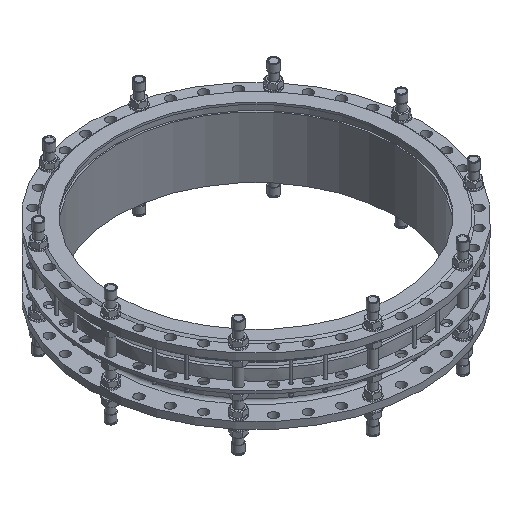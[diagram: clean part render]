
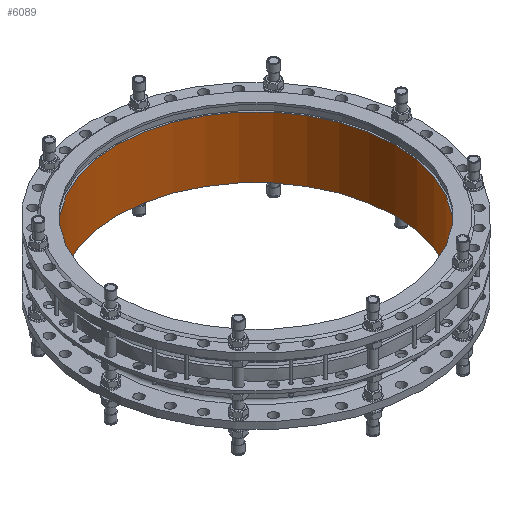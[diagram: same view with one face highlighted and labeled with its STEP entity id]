
A CAD part, isometric view. The second image highlights one B-rep face of the part: STEP entity #6089.
In plain terms, the highlighted cylindrical face has radius 800 mm (diameter 1600 mm), a full revolution.
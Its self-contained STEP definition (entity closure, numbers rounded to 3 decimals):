
#6089=ADVANCED_FACE('',(#6829,#6831),#6833,.F.);
#6829=FACE_OUTER_BOUND('',#6830,.T.);
#6830=EDGE_LOOP('',(#10012));
#6831=FACE_OUTER_BOUND('',#6832,.T.);
#6832=EDGE_LOOP('',(#10013));
#6833=CYLINDRICAL_SURFACE('',#6834,800.);
#6834=AXIS2_PLACEMENT_3D('',#6835,#6836,#6837);
#6835=CARTESIAN_POINT('',(0.,0.,0.));
#6836=DIRECTION('',(0.,0.,1.));
#6837=DIRECTION('',(-1.,0.,0.));
#10012=ORIENTED_EDGE('',*,*,#11943,.F.);
#10013=ORIENTED_EDGE('',*,*,#11944,.F.);
#11943=EDGE_CURVE('',#12824,#12824,#12825,.T.);
#11944=EDGE_CURVE('',#12826,#12826,#12827,.T.);
#12824=VERTEX_POINT('',#14413);
#12825=CIRCLE('',#14414,800.);
#12826=VERTEX_POINT('',#14418);
#12827=CIRCLE('',#14419,800.);
#14413=CARTESIAN_POINT('',(-800.,0.,353.));
#14414=AXIS2_PLACEMENT_3D('',#14415,#14416,#14417);
#14415=CARTESIAN_POINT('',(0.,0.,353.));
#14416=DIRECTION('',(0.,0.,-1.));
#14417=DIRECTION('',(-1.,0.,0.));
#14418=CARTESIAN_POINT('',(-800.,0.,0.));
#14419=AXIS2_PLACEMENT_3D('',#14420,#14421,#14422);
#14420=CARTESIAN_POINT('',(0.,0.,0.));
#14421=DIRECTION('',(0.,0.,1.));
#14422=DIRECTION('',(-1.,0.,0.));
